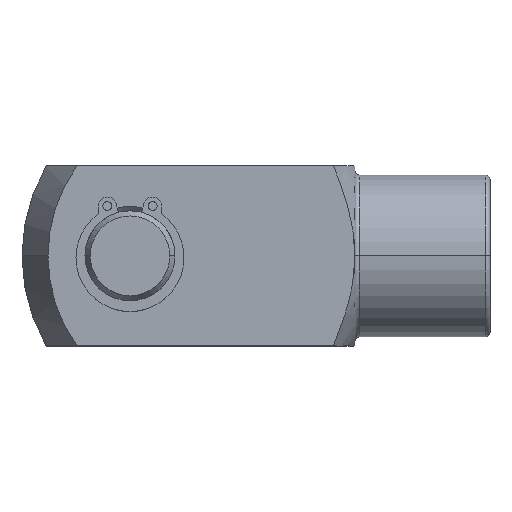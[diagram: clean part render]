
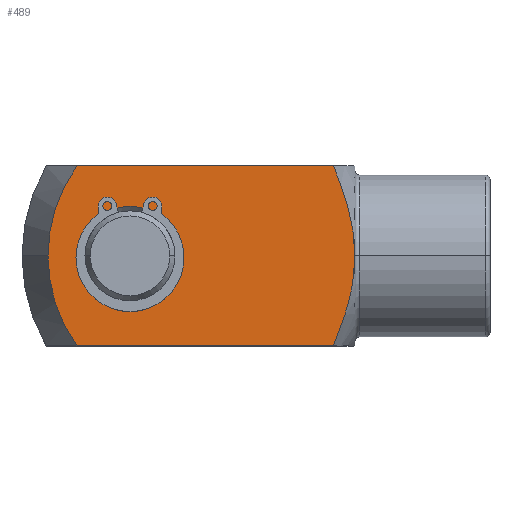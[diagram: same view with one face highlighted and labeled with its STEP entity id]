
A CAD part, top view. The second image highlights one B-rep face of the part: STEP entity #489.
In plain terms, the highlighted planar face has unit normal (0, 0, 1).
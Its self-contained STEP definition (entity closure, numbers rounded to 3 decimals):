
#283 = EDGE_CURVE ( 'NONE', #284, #286, #1070, .T. ) ;
#284 = VERTEX_POINT ( 'NONE', #1065 ) ;
#286 = VERTEX_POINT ( 'NONE', #1064 ) ;
#410 = EDGE_LOOP ( 'NONE', ( #411, #415, #417, #418, #477, #480 ) ) ;
#411 = ORIENTED_EDGE ( 'NONE', *, *, #412, .F. ) ;
#412 = EDGE_CURVE ( 'NONE', #413, #414, #1316, .T. ) ;
#413 = VERTEX_POINT ( 'NONE', #1312 ) ;
#414 = VERTEX_POINT ( 'NONE', #1311 ) ;
#415 = ORIENTED_EDGE ( 'NONE', *, *, #416, .T. ) ;
#416 = EDGE_CURVE ( 'NONE', #413, #284, #1310, .T. ) ;
#417 = ORIENTED_EDGE ( 'NONE', *, *, #283, .T. ) ;
#418 = ORIENTED_EDGE ( 'NONE', *, *, #476, .T. ) ;
#419 = VERTEX_POINT ( 'NONE', #1305 ) ;
#476 = EDGE_CURVE ( 'NONE', #286, #419, #1435, .T. ) ;
#477 = ORIENTED_EDGE ( 'NONE', *, *, #478, .F. ) ;
#478 = EDGE_CURVE ( 'NONE', #479, #419, #1430, .T. ) ;
#479 = VERTEX_POINT ( 'NONE', #1431 ) ;
#480 = ORIENTED_EDGE ( 'NONE', *, *, #481, .F. ) ;
#481 = EDGE_CURVE ( 'NONE', #414, #479, #1419, .T. ) ;
#489 = ADVANCED_FACE ( 'NONE', ( #1461, #1460 ), #1455, .T. ) ;
#490 = EDGE_LOOP ( 'NONE', ( #491, #492 ) ) ;
#491 = ORIENTED_EDGE ( 'NONE', *, *, #2661, .T. ) ;
#492 = ORIENTED_EDGE ( 'NONE', *, *, #493, .T. ) ;
#493 = EDGE_CURVE ( 'NONE', #2632, #2773, #1449, .T. ) ;
#1064 = CARTESIAN_POINT ( 'NONE',  ( -45.888, -10., 10. ) ) ;
#1065 = CARTESIAN_POINT ( 'NONE',  ( -49.113, 0., 10. ) ) ;
#1066 = DIRECTION ( 'NONE',  ( 1., 0., 0. ) ) ;
#1067 = DIRECTION ( 'NONE',  ( 0., 0., 1. ) ) ;
#1068 = CARTESIAN_POINT ( 'NONE',  ( -32., 0., 10. ) ) ;
#1069 = AXIS2_PLACEMENT_3D ( 'NONE', #1068, #1067, #1066 ) ;
#1070 = CIRCLE ( 'NONE', #1069, 17.113 ) ;
#1305 = CARTESIAN_POINT ( 'NONE',  ( -17.391, -10., 10. ) ) ;
#1306 = DIRECTION ( 'NONE',  ( 1., 0., 0. ) ) ;
#1307 = DIRECTION ( 'NONE',  ( 0., 0., 1. ) ) ;
#1308 = CARTESIAN_POINT ( 'NONE',  ( -32., 0., 10. ) ) ;
#1309 = AXIS2_PLACEMENT_3D ( 'NONE', #1308, #1307, #1306 ) ;
#1310 = CIRCLE ( 'NONE', #1309, 17.113 ) ;
#1311 = CARTESIAN_POINT ( 'NONE',  ( -17.391, 10., 10. ) ) ;
#1312 = CARTESIAN_POINT ( 'NONE',  ( -45.888, 10., 10. ) ) ;
#1313 = DIRECTION ( 'NONE',  ( 1., 0., 0. ) ) ;
#1314 = VECTOR ( 'NONE', #1313, 1000. ) ;
#1315 = CARTESIAN_POINT ( 'NONE',  ( -52., 10., 10. ) ) ;
#1316 = LINE ( 'NONE', #1315, #1314 ) ;
#1408 = CARTESIAN_POINT ( 'NONE',  ( -15.129, 2.163, 10. ) ) ;
#1409 = CARTESIAN_POINT ( 'NONE',  ( -15.313, 3.439, 10. ) ) ;
#1410 = CARTESIAN_POINT ( 'NONE',  ( -15.492, 4.278, 10. ) ) ;
#1411 = CARTESIAN_POINT ( 'NONE',  ( -15.928, 5.939, 10. ) ) ;
#1412 = CARTESIAN_POINT ( 'NONE',  ( -16.186, 6.761, 10. ) ) ;
#1413 = CARTESIAN_POINT ( 'NONE',  ( -16.755, 8.393, 10. ) ) ;
#1414 = CARTESIAN_POINT ( 'NONE',  ( -17.066, 9.202, 10. ) ) ;
#1415 = CARTESIAN_POINT ( 'NONE',  ( -17.391, 10., 10. ) ) ;
#1419 = B_SPLINE_CURVE_WITH_KNOTS ( 'NONE', 3,
 ( #1415, #1414, #1413, #1412, #1411, #1410, #1409, #1408, #1469, #1468, #1467, #1466 ),
 .UNSPECIFIED., .F., .F.,
 ( 4, 2, 2, 2, 2, 4 ),
 ( 0.03, 0.033, 0.035, 0.038, 0.039, 0.04 ),
 .UNSPECIFIED. ) ;
#1422 = CARTESIAN_POINT ( 'NONE',  ( -17.391, -10., 10. ) ) ;
#1423 = CARTESIAN_POINT ( 'NONE',  ( -16.738, -8.398, 10. ) ) ;
#1424 = CARTESIAN_POINT ( 'NONE',  ( -16.143, -6.761, 10. ) ) ;
#1425 = CARTESIAN_POINT ( 'NONE',  ( -15.49, -4.269, 10. ) ) ;
#1426 = CARTESIAN_POINT ( 'NONE',  ( -15.312, -3.431, 10. ) ) ;
#1427 = CARTESIAN_POINT ( 'NONE',  ( -15.067, -1.732, 10. ) ) ;
#1428 = CARTESIAN_POINT ( 'NONE',  ( -15., -0.873, 10. ) ) ;
#1429 = CARTESIAN_POINT ( 'NONE',  ( -15., 0., 10. ) ) ;
#1430 = B_SPLINE_CURVE_WITH_KNOTS ( 'NONE', 3,
 ( #1429, #1428, #1427, #1426, #1425, #1424, #1423, #1422 ),
 .UNSPECIFIED., .F., .F.,
 ( 4, 2, 2, 4 ),
 ( 0.04, 0.043, 0.046, 0.051 ),
 .UNSPECIFIED. ) ;
#1431 = CARTESIAN_POINT ( 'NONE',  ( -15., 0., 10. ) ) ;
#1432 = DIRECTION ( 'NONE',  ( 1., 0., 0. ) ) ;
#1433 = VECTOR ( 'NONE', #1432, 1000. ) ;
#1434 = CARTESIAN_POINT ( 'NONE',  ( -52., -10., 10. ) ) ;
#1435 = LINE ( 'NONE', #1434, #1433 ) ;
#1445 = DIRECTION ( 'NONE',  ( 1., 0., 0. ) ) ;
#1446 = DIRECTION ( 'NONE',  ( 0., 0., -1. ) ) ;
#1447 = CARTESIAN_POINT ( 'NONE',  ( -40., 0., 10. ) ) ;
#1448 = AXIS2_PLACEMENT_3D ( 'NONE', #1447, #1446, #1445 ) ;
#1449 = CIRCLE ( 'NONE', #1448, 5.5 ) ;
#1451 = DIRECTION ( 'NONE',  ( 1., 0., 0. ) ) ;
#1452 = DIRECTION ( 'NONE',  ( 0., 0., 1. ) ) ;
#1453 = CARTESIAN_POINT ( 'NONE',  ( -52., -10., 10. ) ) ;
#1454 = AXIS2_PLACEMENT_3D ( 'NONE', #1453, #1452, #1451 ) ;
#1455 = PLANE ( 'NONE',  #1454 ) ;
#1460 = FACE_OUTER_BOUND ( 'NONE', #410, .T. ) ;
#1461 = FACE_BOUND ( 'NONE', #490, .T. ) ;
#1466 = CARTESIAN_POINT ( 'NONE',  ( -15., 0., 10. ) ) ;
#1467 = CARTESIAN_POINT ( 'NONE',  ( -15., 0.435, 10. ) ) ;
#1468 = CARTESIAN_POINT ( 'NONE',  ( -15.017, 0.872, 10. ) ) ;
#1469 = CARTESIAN_POINT ( 'NONE',  ( -15.081, 1.735, 10. ) ) ;
#1788 = CARTESIAN_POINT ( 'NONE',  ( -45.5, 0., 10. ) ) ;
#1805 = CIRCLE ( 'NONE', #1864, 5.5 ) ;
#1861 = DIRECTION ( 'NONE',  ( 1., 0., 0. ) ) ;
#1862 = DIRECTION ( 'NONE',  ( 0., 0., -1. ) ) ;
#1863 = CARTESIAN_POINT ( 'NONE',  ( -40., 0., 10. ) ) ;
#1864 = AXIS2_PLACEMENT_3D ( 'NONE', #1863, #1862, #1861 ) ;
#2036 = CARTESIAN_POINT ( 'NONE',  ( -34.5, 0., 10. ) ) ;
#2632 = VERTEX_POINT ( 'NONE', #1788 ) ;
#2661 = EDGE_CURVE ( 'NONE', #2773, #2632, #1805, .T. ) ;
#2773 = VERTEX_POINT ( 'NONE', #2036 ) ;
